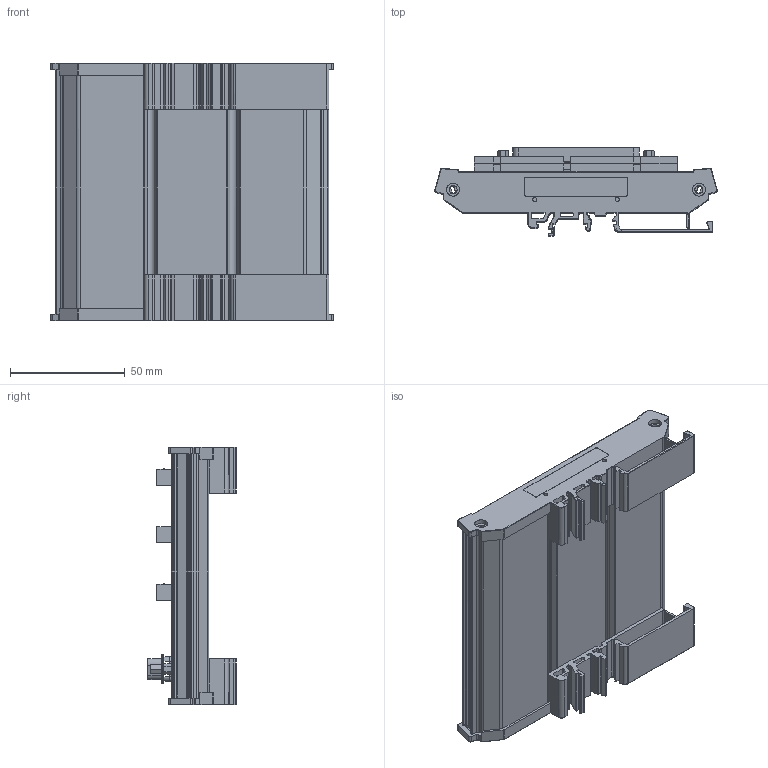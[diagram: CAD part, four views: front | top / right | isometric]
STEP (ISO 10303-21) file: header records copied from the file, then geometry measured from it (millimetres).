
FILE_DESCRIPTION (( 'STEP AP203' ), '1' );
FILE_NAME ('3Dͼֽ P62-14 V1.0.STEP', '2022-09-30T03:26:31', ( 'Microsoft' ), ( 'Microsoft' ), 'SwSTEP 2.0', 'SolidWorks 2020', '' );
FILE_SCHEMA (( 'CONFIG_CONTROL_DESIGN' ));
Products named in the file (3): P62-14 耀郪殤; P62-14 V1.0; 3Dͼֽ P62-14 V1.0
Assembly tree (2 placements, depth 2):
  3Dͼֽ P62-14 V1.0
    P62-14 耀郪殤
    P62-14 V1.0
Bounding box: 122.8 x 38.5 x 112.2 mm (x, y, z)
Volume: 58517.9 mm3; surface area: 132608 mm2
Topology: 1 solids, 422 shells, 7027 faces, 20801 edges, 14094 vertices
Faces by surface type: plane 5168, bspline 853, cylinder 851, sphere 128, cone 25, torus 2
Entity records: 291552 total; most frequent: CARTESIAN_POINT 115229, ORIENTED_EDGE 36604, DIRECTION 31009, EDGE_CURVE 20604, VECTOR 16247, LINE 16247, VERTEX_POINT 14032, EDGE_LOOP 7598
